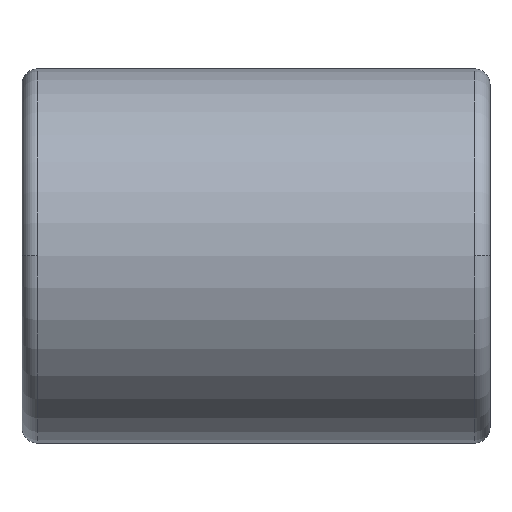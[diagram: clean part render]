
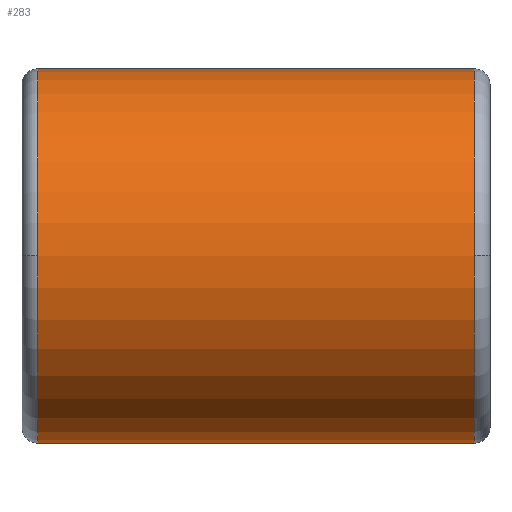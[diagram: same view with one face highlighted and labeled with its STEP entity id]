
A CAD part, top view. The second image highlights one B-rep face of the part: STEP entity #283.
In plain terms, the highlighted cylindrical face has radius 12 mm (diameter 24 mm), a partial arc.
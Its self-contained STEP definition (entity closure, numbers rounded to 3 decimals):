
#5 = CARTESIAN_POINT ( 'NONE',  ( 1., 12., 0. ) ) ;
#6 = VERTEX_POINT ( 'NONE', #44 ) ;
#11 = CARTESIAN_POINT ( 'NONE',  ( 15., 0., 0. ) ) ;
#18 = DIRECTION ( 'NONE',  ( 0., 1., 0. ) ) ;
#19 = ORIENTED_EDGE ( 'NONE', *, *, #109, .T. ) ;
#20 = AXIS2_PLACEMENT_3D ( 'NONE', #22, #337, #68 ) ;
#22 = CARTESIAN_POINT ( 'NONE',  ( 1., 0., 0. ) ) ;
#23 = CIRCLE ( 'NONE', #20, 12. ) ;
#29 = CARTESIAN_POINT ( 'NONE',  ( 15., -12., 0. ) ) ;
#30 = EDGE_CURVE ( 'NONE', #267, #114, #236, .T. ) ;
#32 = CARTESIAN_POINT ( 'NONE',  ( 29., 0., 0. ) ) ;
#41 = CARTESIAN_POINT ( 'NONE',  ( 29., 0., 0. ) ) ;
#44 = CARTESIAN_POINT ( 'NONE',  ( 1., 0., 12. ) ) ;
#57 = AXIS2_PLACEMENT_3D ( 'NONE', #276, #269, #241 ) ;
#58 = ORIENTED_EDGE ( 'NONE', *, *, #145, .F. ) ;
#59 = CYLINDRICAL_SURFACE ( 'NONE', #187, 12. ) ;
#64 = CARTESIAN_POINT ( 'NONE',  ( 15., 12., 0. ) ) ;
#67 = EDGE_CURVE ( 'NONE', #267, #251, #304, .T. ) ;
#68 = DIRECTION ( 'NONE',  ( 0., 1., 0. ) ) ;
#84 = ORIENTED_EDGE ( 'NONE', *, *, #268, .F. ) ;
#108 = DIRECTION ( 'NONE',  ( 1., 0., 0. ) ) ;
#109 = EDGE_CURVE ( 'NONE', #251, #6, #23, .T. ) ;
#111 = DIRECTION ( 'NONE',  ( 0., 1., 0. ) ) ;
#114 = VERTEX_POINT ( 'NONE', #287 ) ;
#116 = DIRECTION ( 'NONE',  ( -1., 0., 0. ) ) ;
#130 = CARTESIAN_POINT ( 'NONE',  ( 29., -12., 0. ) ) ;
#133 = CARTESIAN_POINT ( 'NONE',  ( 29., 12., 0. ) ) ;
#137 = ORIENTED_EDGE ( 'NONE', *, *, #30, .F. ) ;
#145 = EDGE_CURVE ( 'NONE', #186, #303, #174, .T. ) ;
#156 = VECTOR ( 'NONE', #256, 1000. ) ;
#158 = EDGE_LOOP ( 'NONE', ( #58, #84, #137, #226, #19, #217 ) ) ;
#174 = LINE ( 'NONE', #29, #156 ) ;
#177 = CIRCLE ( 'NONE', #57, 12. ) ;
#186 = VERTEX_POINT ( 'NONE', #130 ) ;
#187 = AXIS2_PLACEMENT_3D ( 'NONE', #11, #214, #111 ) ;
#206 = AXIS2_PLACEMENT_3D ( 'NONE', #41, #219, #18 ) ;
#213 = CIRCLE ( 'NONE', #297, 12. ) ;
#214 = DIRECTION ( 'NONE',  ( -1., 0., 0. ) ) ;
#217 = ORIENTED_EDGE ( 'NONE', *, *, #233, .T. ) ;
#219 = DIRECTION ( 'NONE',  ( 1., 0., 0. ) ) ;
#226 = ORIENTED_EDGE ( 'NONE', *, *, #67, .T. ) ;
#228 = VECTOR ( 'NONE', #116, 1000. ) ;
#233 = EDGE_CURVE ( 'NONE', #6, #303, #177, .T. ) ;
#236 = CIRCLE ( 'NONE', #206, 12. ) ;
#241 = DIRECTION ( 'NONE',  ( 0., 1., 0. ) ) ;
#251 = VERTEX_POINT ( 'NONE', #5 ) ;
#256 = DIRECTION ( 'NONE',  ( -1., 0., 0. ) ) ;
#266 = CARTESIAN_POINT ( 'NONE',  ( 1., -12., 0. ) ) ;
#267 = VERTEX_POINT ( 'NONE', #133 ) ;
#268 = EDGE_CURVE ( 'NONE', #114, #186, #213, .T. ) ;
#269 = DIRECTION ( 'NONE',  ( 1., 0., 0. ) ) ;
#276 = CARTESIAN_POINT ( 'NONE',  ( 1., 0., 0. ) ) ;
#283 = ADVANCED_FACE ( 'NONE', ( #296 ), #59, .T. ) ;
#287 = CARTESIAN_POINT ( 'NONE',  ( 29., 0., 12. ) ) ;
#296 = FACE_OUTER_BOUND ( 'NONE', #158, .T. ) ;
#297 = AXIS2_PLACEMENT_3D ( 'NONE', #32, #108, #324 ) ;
#303 = VERTEX_POINT ( 'NONE', #266 ) ;
#304 = LINE ( 'NONE', #64, #228 ) ;
#324 = DIRECTION ( 'NONE',  ( 0., 1., 0. ) ) ;
#337 = DIRECTION ( 'NONE',  ( 1., 0., 0. ) ) ;
